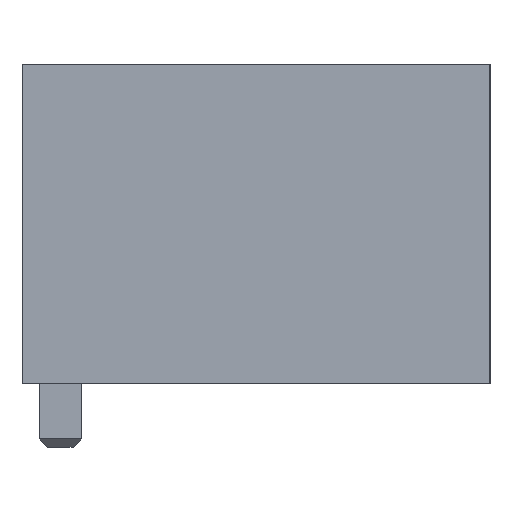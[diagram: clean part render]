
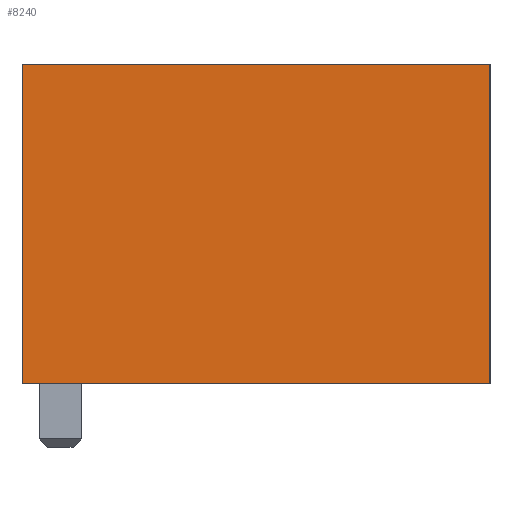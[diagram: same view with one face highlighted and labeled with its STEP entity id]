
A CAD part, left-side view. The second image highlights one B-rep face of the part: STEP entity #8240.
In plain terms, the highlighted planar face has unit normal (-1, 0, 0).
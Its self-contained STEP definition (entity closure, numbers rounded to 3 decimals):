
#715=DIRECTION('',(0.,1.,0.));
#716=VECTOR('',#715,11.);
#717=CARTESIAN_POINT('',(0.,0.037,0.));
#718=LINE('',#717,#716);
#1868=DIRECTION('',(0.,0.,-1.));
#1869=VECTOR('',#1868,7.5);
#1870=CARTESIAN_POINT('',(0.,11.037,0.));
#1871=LINE('',#1870,#1869);
#1886=DIRECTION('',(0.,1.,0.));
#1887=VECTOR('',#1886,11.);
#1888=CARTESIAN_POINT('',(0.,0.037,-7.5));
#1889=LINE('',#1888,#1887);
#1890=DIRECTION('',(0.,0.,-1.));
#1891=VECTOR('',#1890,7.5);
#1892=CARTESIAN_POINT('',(0.,0.037,0.));
#1893=LINE('',#1892,#1891);
#4448=CARTESIAN_POINT('',(0.,0.037,-7.5));
#4450=VERTEX_POINT('',#4448);
#4478=CARTESIAN_POINT('',(0.,11.037,-7.5));
#4479=VERTEX_POINT('',#4478);
#4512=CARTESIAN_POINT('',(0.,0.037,0.));
#4513=VERTEX_POINT('',#4512);
#4640=CARTESIAN_POINT('',(0.,11.037,0.));
#4641=VERTEX_POINT('',#4640);
#8229=CARTESIAN_POINT('',(0.,11.037,-7.5));
#8230=DIRECTION('',(-1.,0.,0.));
#8231=DIRECTION('',(0.,-1.,0.));
#8232=AXIS2_PLACEMENT_3D('',#8229,#8230,#8231);
#8233=PLANE('',#8232);
#8234=ORIENTED_EDGE('',*,*,#5629,.T.);
#8235=ORIENTED_EDGE('',*,*,#8217,.F.);
#8236=ORIENTED_EDGE('',*,*,#6371,.F.);
#8237=ORIENTED_EDGE('',*,*,#5672,.T.);
#8238=EDGE_LOOP('',(#8234,#8235,#8236,#8237));
#8239=FACE_OUTER_BOUND('',#8238,.F.);
#8240=ADVANCED_FACE('',(#8239),#8233,.T.);
#5629=EDGE_CURVE('',#4450,#4479,#1889,.T.);
#5672=EDGE_CURVE('',#4513,#4450,#1893,.T.);
#6371=EDGE_CURVE('',#4513,#4641,#718,.T.);
#8217=EDGE_CURVE('',#4641,#4479,#1871,.T.);
